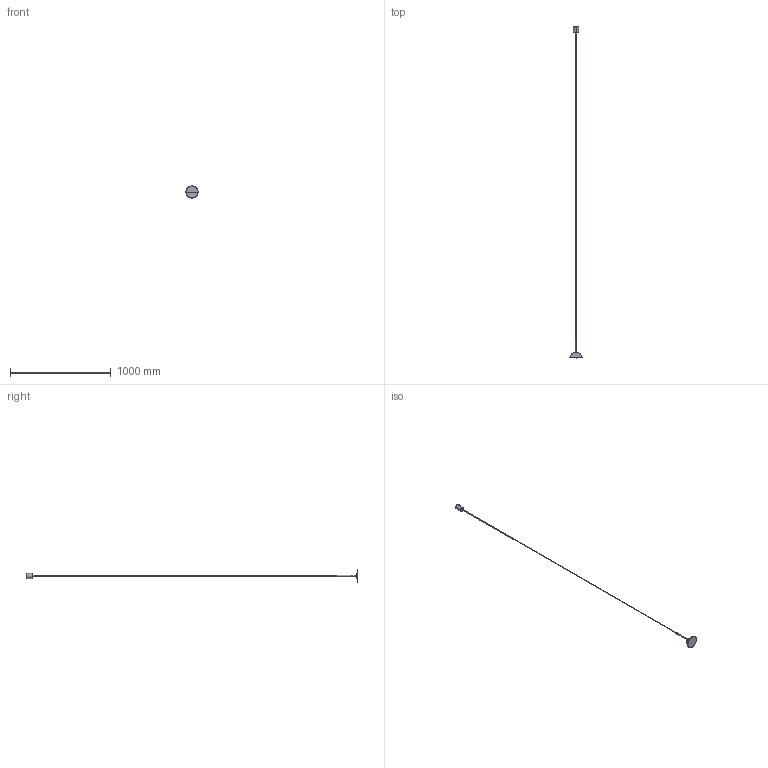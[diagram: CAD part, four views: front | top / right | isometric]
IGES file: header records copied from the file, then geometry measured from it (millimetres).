
Start section: SolidWorks IGES file using analytic representation for surfaces
Global section: file name: C:\Users\Agus\Desktop\NOVEDADES SEPT 2022 - copia\DUSSA\C1307\C1307.IGS; native system: SolidWorks 2018; preprocessor: SolidWorks 2018; author: Agus; date: 220622.131320; units: millimetre
Bounding box: 120 x 3301 x 120 mm (x, y, z)
Surface area: 109853.3 mm2 (no closed solid volume)
Topology: 0 solids, 0 shells, 34 faces, 710 edges, 710 vertices
Faces by surface type: revolution 19, bspline 15
